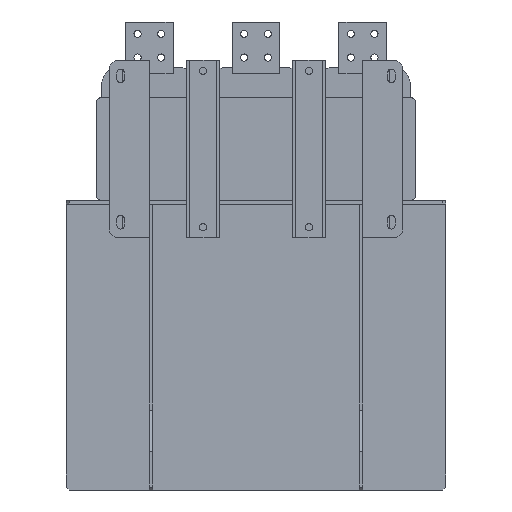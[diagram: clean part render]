
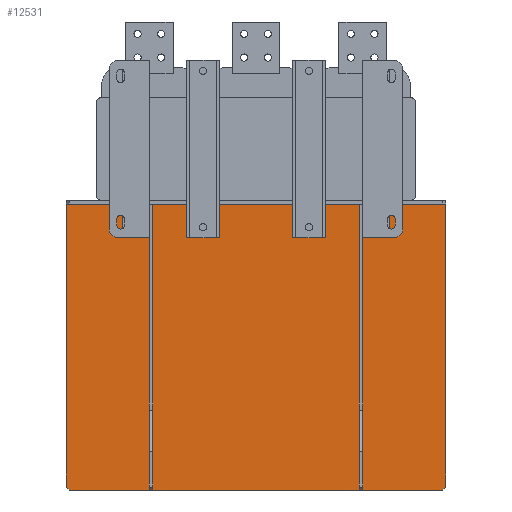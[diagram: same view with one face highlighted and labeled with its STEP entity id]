
A CAD part, front view. The second image highlights one B-rep face of the part: STEP entity #12531.
In plain terms, the highlighted planar face has unit normal (0, -1, 0).
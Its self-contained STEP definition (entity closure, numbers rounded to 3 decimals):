
#554=PLANE('',#13594);
#1208=FACE_OUTER_BOUND('',#2094,.T.);
#2094=EDGE_LOOP('',(#9895,#9896,#9897,#9898,#9899,#9900));
#3152=LINE('',#19435,#4501);
#3162=LINE('',#19455,#4511);
#3165=LINE('',#19461,#4514);
#3170=LINE('',#19470,#4519);
#3172=LINE('',#19474,#4521);
#3173=LINE('',#19476,#4522);
#4501=VECTOR('',#15683,10.);
#4511=VECTOR('',#15699,10.);
#4514=VECTOR('',#15704,10.);
#4519=VECTOR('',#15711,10.);
#4521=VECTOR('',#15717,10.);
#4522=VECTOR('',#15720,10.);
#6157=VERTEX_POINT('',#19432);
#6158=VERTEX_POINT('',#19434);
#6164=VERTEX_POINT('',#19452);
#6165=VERTEX_POINT('',#19454);
#6167=VERTEX_POINT('',#19460);
#6170=VERTEX_POINT('',#19468);
#7496=EDGE_CURVE('',#6157,#6158,#3152,.T.);
#7506=EDGE_CURVE('',#6164,#6165,#3162,.T.);
#7509=EDGE_CURVE('',#6167,#6157,#3165,.T.);
#7514=EDGE_CURVE('',#6170,#6167,#3170,.T.);
#7516=EDGE_CURVE('',#6165,#6170,#3172,.T.);
#7517=EDGE_CURVE('',#6158,#6164,#3173,.T.);
#9895=ORIENTED_EDGE('',*,*,#7509,.F.);
#9896=ORIENTED_EDGE('',*,*,#7514,.F.);
#9897=ORIENTED_EDGE('',*,*,#7516,.F.);
#9898=ORIENTED_EDGE('',*,*,#7506,.F.);
#9899=ORIENTED_EDGE('',*,*,#7517,.F.);
#9900=ORIENTED_EDGE('',*,*,#7496,.F.);
#12531=ADVANCED_FACE('',(#1208),#554,.T.);
#13594=AXIS2_PLACEMENT_3D('',#19475,#15718,#15719);
#15683=DIRECTION('',(0.,0.,1.));
#15699=DIRECTION('',(0.,0.,-1.));
#15704=DIRECTION('',(-0.707,0.,0.707));
#15711=DIRECTION('',(-1.,0.,0.));
#15717=DIRECTION('',(-0.707,0.,-0.707));
#15718=DIRECTION('center_axis',(0.,-1.,0.));
#15719=DIRECTION('ref_axis',(0.,0.,-1.));
#15720=DIRECTION('',(1.,0.,0.));
#19432=CARTESIAN_POINT('',(-320.,130.,-570.5));
#19434=CARTESIAN_POINT('',(-320.,130.,-93.));
#19435=CARTESIAN_POINT('',(-320.,130.,-93.));
#19452=CARTESIAN_POINT('',(320.,130.,-93.));
#19454=CARTESIAN_POINT('',(320.,130.,-570.5));
#19455=CARTESIAN_POINT('',(320.,130.,-93.));
#19460=CARTESIAN_POINT('',(-315.,130.,-575.5));
#19461=CARTESIAN_POINT('',(-358.125,130.,-532.375));
#19468=CARTESIAN_POINT('',(315.,130.,-575.5));
#19470=CARTESIAN_POINT('',(0.,130.,-575.5));
#19474=CARTESIAN_POINT('',(358.125,130.,-532.375));
#19475=CARTESIAN_POINT('Origin',(0.,130.,-93.));
#19476=CARTESIAN_POINT('',(0.,130.,-93.));
